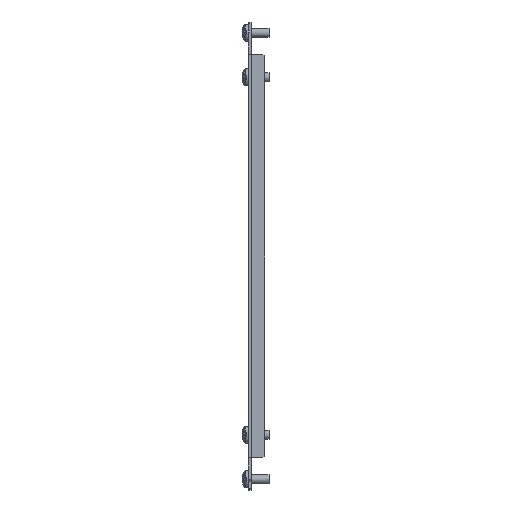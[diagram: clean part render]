
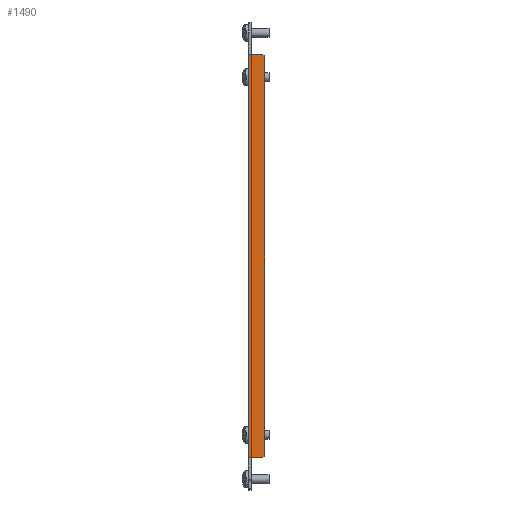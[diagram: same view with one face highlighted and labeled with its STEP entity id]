
A CAD part, left-side view. The second image highlights one B-rep face of the part: STEP entity #1490.
In plain terms, the highlighted planar face has unit normal (-1, 0, 0) as drawn and (1, 0, 0) by its records, which use the part's own axes.
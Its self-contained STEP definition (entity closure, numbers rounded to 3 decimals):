
#95 = CARTESIAN_POINT ( 'NONE',  ( 634., 113., 0. ) ) ;
#135 = DIRECTION ( 'NONE',  ( 0., 0., 1. ) ) ;
#198 = ORIENTED_EDGE ( 'NONE', *, *, #2323, .F. ) ;
#312 = VECTOR ( 'NONE', #2226, 1000. ) ;
#385 = EDGE_CURVE ( 'NONE', #2416, #409, #648, .T. ) ;
#407 = VERTEX_POINT ( 'NONE', #2926 ) ;
#408 = CARTESIAN_POINT ( 'NONE',  ( 634., 113., 0. ) ) ;
#409 = VERTEX_POINT ( 'NONE', #3230 ) ;
#419 = FACE_OUTER_BOUND ( 'NONE', #2140, .T. ) ;
#439 = DIRECTION ( 'NONE',  ( -1., 0., 0. ) ) ;
#648 = LINE ( 'NONE', #2657, #1314 ) ;
#730 = CARTESIAN_POINT ( 'NONE',  ( 634., -113., -2.1 ) ) ;
#829 = VECTOR ( 'NONE', #2130, 1000. ) ;
#887 = LINE ( 'NONE', #2625, #3110 ) ;
#942 = CARTESIAN_POINT ( 'NONE',  ( 634., 0., 0. ) ) ;
#958 = DIRECTION ( 'NONE',  ( 0., 0., 1. ) ) ;
#1022 = EDGE_CURVE ( 'NONE', #409, #407, #2282, .T. ) ;
#1062 = VERTEX_POINT ( 'NONE', #2061 ) ;
#1100 = CARTESIAN_POINT ( 'NONE',  ( 634., -113., 0. ) ) ;
#1106 = LINE ( 'NONE', #3172, #829 ) ;
#1190 = CARTESIAN_POINT ( 'NONE',  ( 634., 113., -8. ) ) ;
#1200 = CARTESIAN_POINT ( 'NONE',  ( 634., -113., 0. ) ) ;
#1206 = LINE ( 'NONE', #1190, #312 ) ;
#1252 = EDGE_CURVE ( 'NONE', #1436, #2834, #887, .T. ) ;
#1293 = CARTESIAN_POINT ( 'NONE',  ( 634., 0., -9. ) ) ;
#1307 = DIRECTION ( 'NONE',  ( 0., 1., 0. ) ) ;
#1314 = VECTOR ( 'NONE', #1632, 1000. ) ;
#1426 = LINE ( 'NONE', #95, #2830 ) ;
#1436 = VERTEX_POINT ( 'NONE', #2247 ) ;
#1490 = ADVANCED_FACE ( 'NONE', ( #419 ), #2967, .F. ) ;
#1629 = LINE ( 'NONE', #1200, #2490 ) ;
#1632 = DIRECTION ( 'NONE',  ( 0., 0.707, -0.707 ) ) ;
#1637 = DIRECTION ( 'NONE',  ( 0., 0., 1. ) ) ;
#1741 = EDGE_CURVE ( 'NONE', #2919, #2416, #2386, .T. ) ;
#1824 = DIRECTION ( 'NONE',  ( 0., 0., -1. ) ) ;
#1829 = ORIENTED_EDGE ( 'NONE', *, *, #1022, .T. ) ;
#2061 = CARTESIAN_POINT ( 'NONE',  ( 634., 113., -8. ) ) ;
#2130 = DIRECTION ( 'NONE',  ( 0., -1., 0. ) ) ;
#2135 = CARTESIAN_POINT ( 'NONE',  ( 634., -113., 0. ) ) ;
#2140 = EDGE_LOOP ( 'NONE', ( #1829, #2977, #3108, #2271, #2369, #198, #2792, #2487 ) ) ;
#2181 = VERTEX_POINT ( 'NONE', #2135 ) ;
#2203 = VECTOR ( 'NONE', #1307, 1000. ) ;
#2226 = DIRECTION ( 'NONE',  ( 0., 0.707, 0.707 ) ) ;
#2247 = CARTESIAN_POINT ( 'NONE',  ( 634., 113., -2.1 ) ) ;
#2271 = ORIENTED_EDGE ( 'NONE', *, *, #1252, .T. ) ;
#2282 = LINE ( 'NONE', #1293, #2203 ) ;
#2286 = CARTESIAN_POINT ( 'NONE',  ( 634., -113., -8. ) ) ;
#2323 = EDGE_CURVE ( 'NONE', #2919, #2181, #1629, .T. ) ;
#2344 = AXIS2_PLACEMENT_3D ( 'NONE', #942, #439, #958 ) ;
#2369 = ORIENTED_EDGE ( 'NONE', *, *, #2739, .T. ) ;
#2386 = LINE ( 'NONE', #1100, #2515 ) ;
#2416 = VERTEX_POINT ( 'NONE', #2286 ) ;
#2466 = DIRECTION ( 'NONE',  ( 0., 0., 1. ) ) ;
#2487 = ORIENTED_EDGE ( 'NONE', *, *, #385, .T. ) ;
#2490 = VECTOR ( 'NONE', #135, 1000. ) ;
#2515 = VECTOR ( 'NONE', #1824, 1000. ) ;
#2625 = CARTESIAN_POINT ( 'NONE',  ( 634., 113., -2.1 ) ) ;
#2657 = CARTESIAN_POINT ( 'NONE',  ( 634., -112., -9. ) ) ;
#2739 = EDGE_CURVE ( 'NONE', #2834, #2181, #1106, .T. ) ;
#2792 = ORIENTED_EDGE ( 'NONE', *, *, #1741, .T. ) ;
#2830 = VECTOR ( 'NONE', #2466, 1000. ) ;
#2834 = VERTEX_POINT ( 'NONE', #408 ) ;
#2839 = EDGE_CURVE ( 'NONE', #1062, #1436, #1426, .T. ) ;
#2919 = VERTEX_POINT ( 'NONE', #730 ) ;
#2926 = CARTESIAN_POINT ( 'NONE',  ( 634., 112., -9. ) ) ;
#2967 = PLANE ( 'NONE',  #2344 ) ;
#2977 = ORIENTED_EDGE ( 'NONE', *, *, #3291, .T. ) ;
#3108 = ORIENTED_EDGE ( 'NONE', *, *, #2839, .T. ) ;
#3110 = VECTOR ( 'NONE', #1637, 1000. ) ;
#3172 = CARTESIAN_POINT ( 'NONE',  ( 634., 0., 0. ) ) ;
#3230 = CARTESIAN_POINT ( 'NONE',  ( 634., -112., -9. ) ) ;
#3291 = EDGE_CURVE ( 'NONE', #407, #1062, #1206, .T. ) ;
